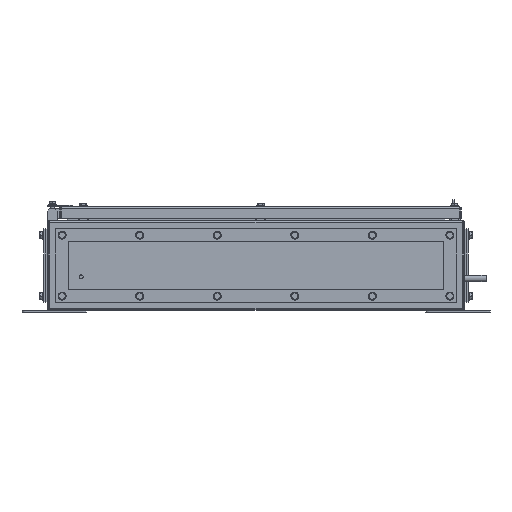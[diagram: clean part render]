
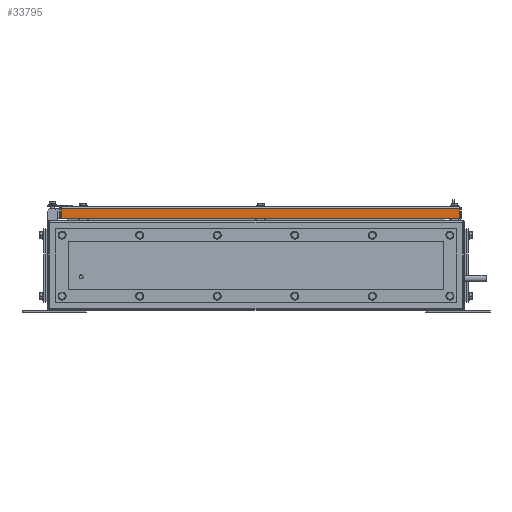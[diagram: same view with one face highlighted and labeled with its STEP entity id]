
A CAD part, front view. The second image highlights one B-rep face of the part: STEP entity #33795.
In plain terms, the highlighted planar face has unit normal (0, -1, 0).
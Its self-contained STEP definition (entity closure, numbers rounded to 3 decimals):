
#847 = EDGE_CURVE ( 'NONE', #3433, #11366, #5949, .T. ) ;
#1436 = CARTESIAN_POINT ( 'NONE',  ( 14., -472., 0. ) ) ;
#1457 = VECTOR ( 'NONE', #26621, 1000. ) ;
#1465 = EDGE_CURVE ( 'NONE', #11366, #36948, #36410, .T. ) ;
#3433 = VERTEX_POINT ( 'NONE', #12290 ) ;
#4628 = LINE ( 'NONE', #13611, #24966 ) ;
#5856 = CARTESIAN_POINT ( 'NONE',  ( 635., -472., 0. ) ) ;
#5949 = LINE ( 'NONE', #35886, #13138 ) ;
#6635 = ORIENTED_EDGE ( 'NONE', *, *, #1465, .T. ) ;
#7742 = DIRECTION ( 'NONE',  ( 1., 0., 0. ) ) ;
#8359 = EDGE_CURVE ( 'NONE', #15812, #3433, #12143, .T. ) ;
#11366 = VERTEX_POINT ( 'NONE', #15167 ) ;
#11754 = VECTOR ( 'NONE', #30332, 1000. ) ;
#11765 = FACE_OUTER_BOUND ( 'NONE', #32853, .T. ) ;
#12143 = LINE ( 'NONE', #30130, #1457 ) ;
#12290 = CARTESIAN_POINT ( 'NONE',  ( 635., -472., 15. ) ) ;
#13138 = VECTOR ( 'NONE', #17475, 1000. ) ;
#13611 = CARTESIAN_POINT ( 'NONE',  ( 11., -472., 0. ) ) ;
#14886 = PLANE ( 'NONE',  #33852 ) ;
#15167 = CARTESIAN_POINT ( 'NONE',  ( 14., -472., 15. ) ) ;
#15812 = VERTEX_POINT ( 'NONE', #5856 ) ;
#17475 = DIRECTION ( 'NONE',  ( -1., 0., 0. ) ) ;
#18100 = EDGE_CURVE ( 'NONE', #36948, #15812, #4628, .T. ) ;
#20172 = DIRECTION ( 'NONE',  ( 0., 1., 0. ) ) ;
#23201 = ORIENTED_EDGE ( 'NONE', *, *, #8359, .T. ) ;
#23696 = ORIENTED_EDGE ( 'NONE', *, *, #847, .T. ) ;
#24966 = VECTOR ( 'NONE', #7742, 1000. ) ;
#26621 = DIRECTION ( 'NONE',  ( 0., 0., 1. ) ) ;
#29942 = DIRECTION ( 'NONE',  ( 0., 0., 1. ) ) ;
#30130 = CARTESIAN_POINT ( 'NONE',  ( 635., -472., 18. ) ) ;
#30332 = DIRECTION ( 'NONE',  ( 0., 0., -1. ) ) ;
#32853 = EDGE_LOOP ( 'NONE', ( #35094, #23201, #23696, #6635 ) ) ;
#33795 = ADVANCED_FACE ( 'NONE', ( #11765 ), #14886, .F. ) ;
#33852 = AXIS2_PLACEMENT_3D ( 'NONE', #35447, #20172, #29942 ) ;
#35094 = ORIENTED_EDGE ( 'NONE', *, *, #18100, .T. ) ;
#35447 = CARTESIAN_POINT ( 'NONE',  ( 11., -472., 18. ) ) ;
#35886 = CARTESIAN_POINT ( 'NONE',  ( 11., -472., 15. ) ) ;
#36410 = LINE ( 'NONE', #36606, #11754 ) ;
#36606 = CARTESIAN_POINT ( 'NONE',  ( 14., -472., 18. ) ) ;
#36948 = VERTEX_POINT ( 'NONE', #1436 ) ;
